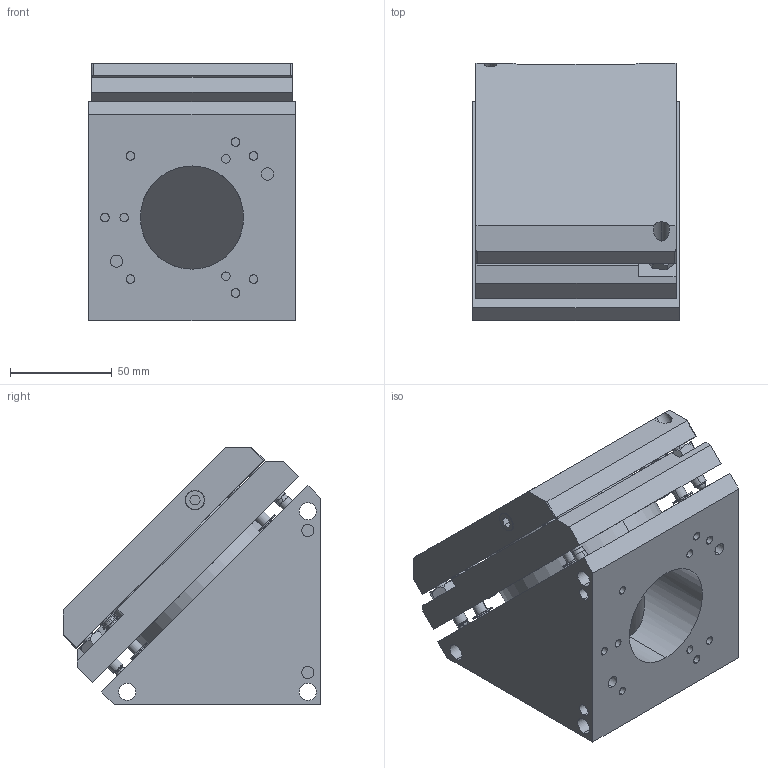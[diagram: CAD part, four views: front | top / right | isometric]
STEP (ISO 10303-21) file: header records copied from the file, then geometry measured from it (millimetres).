
FILE_DESCRIPTION (( 'STEP AP214' ), '1' );
FILE_NAME ('BBK-50-76095-WN.STEP', '2017-05-02T17:16:13', ( '' ), ( '' ), 'SwSTEP 2.0', 'SolidWorks 2017', '' );
FILE_SCHEMA (( 'AUTOMOTIVE_DESIGN' ));
Length unit declared in the file: inch
Products named in the file (1): BBK-50-76095-WN
Bounding box: 101.6 x 126.76 x 126.76 mm (x, y, z)
Volume: 1211265.4 mm3; surface area: 190816.9 mm2
Topology: 35 solids, 35 shells, 872 faces, 2064 edges, 1339 vertices
Faces by surface type: plane 386, cylinder 320, cone 130, torus 20, bspline 10, sphere 6
Entity records: 34678 total; most frequent: CARTESIAN_POINT 13672, DIRECTION 4485, ORIENTED_EDGE 4100, EDGE_CURVE 2050, AXIS2_PLACEMENT_3D 1697, VERTEX_POINT 1339, LINE 1091, VECTOR 1091
